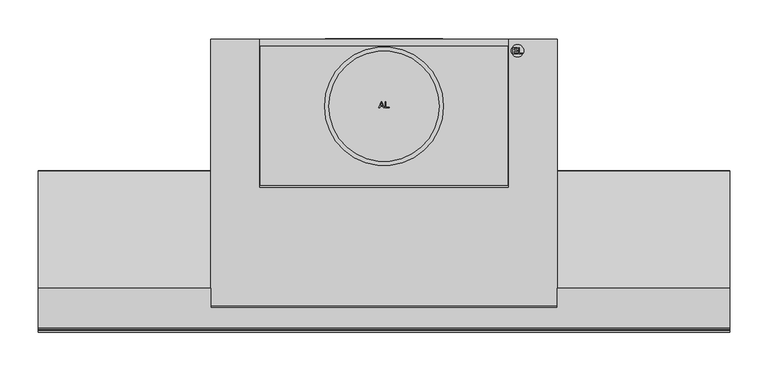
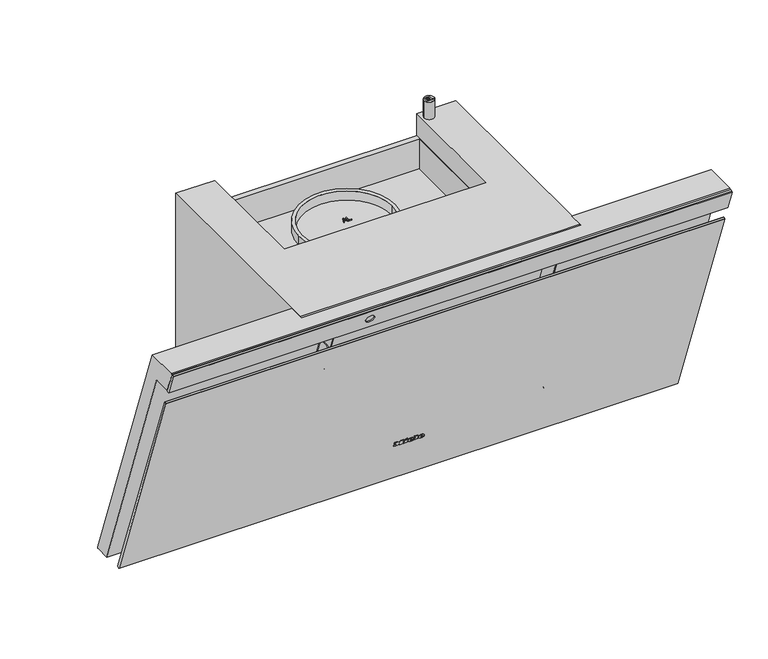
"""IFC4 building model written with IfcOpenShell, lengths in millimetres: proxy geometry, 12568680_F_DAH4980_MASW : 28H4980M_F_12568680_DAH4980_MASW."""

from ifc_helpers import new_model, si_unit, point, frame, frame_2d, origin, origin_with_axes, place, context, project, spatial, polyline, circle_curve, ellipse_curve, trimmed, segment, composite_curve, outline, extrude, faceted_brep, source, transform, mapped, element, save
from ifc_brep_helpers import plane_surface, cylinder_surface, revolved_surface, extruded_surface, advanced_brep


def specialty_equipment_e7027d4f(model_context):
    return source(origin(), model_context, "Body", "SolidModel", [
        extrude(outline(polyline([(0.0, 0.0), (0.968, 0.0), (0.968, 5.352), (0.0, 5.352), (0.0, 6.696), (3.52, 6.696), (3.52, 5.352), (2.56, 5.352), (2.56, 1.9488753), (6.136, 6.696), (9.728, 1.8807777), (9.728, 5.352), (8.744, 5.352), (8.744, 6.696), (15.128, 6.696), (15.128, 5.352), (14.112, 5.352), (14.112, 0.0), (15.128, 0.0), (15.128, -1.304), (10.256, -1.304), (7.92, 1.696), (5.576, -1.304), (0.0, -1.304), (0.0, 0.0)])), frame((-24.271984, -261.1380975, 82.2921818), z_axis=(0.0, 0.9396926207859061, 0.34202014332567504), x_axis=(1.0, 0.0, 0.0)), (0.0, 0.0, 1.0), 1.0),
        extrude(outline(polyline([(0.0, 0.0), (0.96, 0.0), (0.96, 5.352), (0.0, 5.352), (0.0, 6.696), (6.488, 6.696), (6.488, 5.352), (5.504, 5.352), (5.504, -1.304), (0.0, -1.304), (0.0, 0.0)])), frame((8.192016, -261.1380975, 82.2921818), z_axis=(0.0, 0.9396926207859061, 0.34202014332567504), x_axis=(1.0, 0.0, 0.0)), (0.0, 0.0, 1.0), 1.0),
        extrude(outline(polyline([(0.0, 0.0), (1.4315306, 0.0), (1.4390414, -2.9920869), (0.0109086, -2.9993294), (0.0, 0.0)])), frame((-6.351984, -261.4226582, 83.074006), z_axis=(0.0, 0.9396926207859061, 0.342020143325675), x_axis=(0.42472021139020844, 0.30963927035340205, -0.8507269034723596)), (0.0, 0.0, 1.0), 1.0),
        extrude(outline(polyline([(0.4933907, 2.4141097), (1.7898156, 3.022309), (2.1941493, 2.1604399), (5.1636141, 3.5535222), (4.7592805, 4.4153913), (5.9760369, 4.9862153), (8.6568708, -0.728194), (7.4401145, -1.299018), (7.0459741, -0.4588767), (2.7800843, -2.4601583), (0.4933907, 2.4141097)])), frame((-6.351984, -261.4226582, 83.074006), z_axis=(0.0, 0.9396926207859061, 0.342020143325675), x_axis=(0.42472021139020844, 0.30963927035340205, -0.8507269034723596)), (0.0, 0.0, 1.0), 1.0),
        advanced_brep(
        [(2.392016, -259.4964008, 77.7816572), (2.392016, -259.7727531, 78.5409288), (7.744016, -259.7727531, 78.5409288), (-1.567984, -259.7727531, 78.5409288), (0.632016, -258.8479306, 76.0), (7.608016, -259.4964008, 77.7816572), (5.192016, -259.4964008, 77.7816572), (3.288016, -259.1899507, 76.9396926), (2.392016, -260.1229817, 79.5031741), (2.392016, -260.4212233, 80.3225861), (3.760016, -260.4212233, 80.3225861), (3.760016, -260.1229817, 79.5031741), (2.392016, -258.5567082, 78.1236774), (3.288016, -258.2502581, 77.2817128), (5.192016, -258.5567082, 78.1236774), (7.608016, -258.5567082, 78.1236774), (0.632016, -257.908238, 76.3420201), (-1.567984, -258.8330604, 78.882949), (7.744016, -258.8330604, 78.882949), (2.392016, -258.8330604, 78.882949), (2.392016, -259.1832891, 79.8451942), (3.760016, -259.1832891, 79.8451942), (3.760016, -259.4815306, 80.6646062), (2.392016, -259.4815306, 80.6646062)],
        [
            (0, 1),
            (1, 2),
            (2, 3, ellipse_curve(frame((3.088016, -259.7727531, 78.5409288), z_axis=(0.0, -0.9396926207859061, -0.34202014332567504), x_axis=(-1.0, 0.0, 0.0)), 4.656, 3.848)),
            (3, 4, circle_curve(frame((1.5280596, -259.8657825, 78.7965252), z_axis=(0.0, -0.9396926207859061, -0.34202014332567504), x_axis=(0.0, 0.34202014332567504, -0.9396926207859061)), 3.1079688)),
            (4, 5, circle_curve(frame((2.9948096, -260.5881291, 80.7811561), z_axis=(0.0, -0.9396926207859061, -0.34202014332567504), x_axis=(0.0, 0.34202014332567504, -0.9396926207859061)), 5.6098607)),
            (5, 6),
            (6, 7, circle_curve(frame((3.6790748, -259.7508638, 78.4807885), z_axis=(0.0, 0.9396926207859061, 0.34202014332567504), x_axis=(0.0, 0.34202014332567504, -0.9396926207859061)), 1.6859795)),
            (7, 0, circle_curve(frame((3.288016, -259.4964008, 77.7816572), z_axis=(0.0, 0.9396926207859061, 0.34202014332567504), x_axis=(0.0, 0.34202014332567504, -0.9396926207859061)), 0.896)),
            (8, 9),
            (9, 10, circle_curve(frame((3.076016, -260.4212233, 80.3225861), z_axis=(0.0, 0.9396926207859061, 0.34202014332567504), x_axis=(0.0, 0.34202014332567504, -0.9396926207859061)), 0.684)),
            (10, 11),
            (11, 8),
            (12, 13, circle_curve(frame((3.288016, -258.5567082, 78.1236774), z_axis=(0.0, -0.9396926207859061, -0.34202014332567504), x_axis=(0.0, 0.34202014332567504, -0.9396926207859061)), 0.896)),
            (13, 14, circle_curve(frame((3.6790748, -258.8111712, 78.8228087), z_axis=(0.0, -0.9396926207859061, -0.34202014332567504), x_axis=(0.0, 0.34202014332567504, -0.9396926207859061)), 1.6859795)),
            (14, 15),
            (15, 16, circle_curve(frame((2.9948096, -259.6484365, 81.1231762), z_axis=(0.0, 0.9396926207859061, 0.34202014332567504), x_axis=(0.0, 0.34202014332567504, -0.9396926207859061)), 5.6098607)),
            (16, 17, circle_curve(frame((1.5280596, -258.9260899, 79.1385454), z_axis=(0.0, 0.9396926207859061, 0.34202014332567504), x_axis=(0.0, 0.34202014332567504, -0.9396926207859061)), 3.1079688)),
            (17, 18, ellipse_curve(frame((3.088016, -258.8330604, 78.882949), z_axis=(0.0, 0.9396926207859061, 0.34202014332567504), x_axis=(-1.0, 0.0, 0.0)), 4.656, 3.848)),
            (18, 19),
            (19, 12),
            (20, 21),
            (21, 22),
            (22, 23, circle_curve(frame((3.076016, -259.4815306, 80.6646062), z_axis=(0.0, -0.9396926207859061, -0.34202014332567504), x_axis=(0.0, 0.34202014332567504, -0.9396926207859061)), 0.684)),
            (23, 20),
            (0, 12),
            (19, 1),
            (18, 2),
            (5, 15),
            (14, 6),
            (17, 3),
            (13, 7),
            (16, 4),
            (8, 20),
            (23, 9),
            (22, 10),
            (21, 11),
        ],
        [
            plane_surface(frame((2.392016, -259.7727531, 78.5409288), z_axis=(0.0, -0.9396926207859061, -0.34202014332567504), x_axis=(0.0, -0.34202014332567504, 0.9396926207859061))),
            plane_surface(frame((2.392016, -258.8330604, 78.882949), z_axis=(0.0, 0.9396926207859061, 0.34202014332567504), x_axis=(0.0, 0.34202014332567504, -0.9396926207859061))),
            plane_surface(frame((2.392016, -259.4964008, 77.7816572), z_axis=(1.0, 0.0, 0.0), x_axis=(0.0, 0.9396926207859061, 0.34202014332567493))),
            plane_surface(frame((2.392016, -259.7727531, 78.5409288), z_axis=(0.0, 0.34202014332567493, -0.9396926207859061), x_axis=(0.0, 0.9396926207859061, 0.34202014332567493))),
            plane_surface(frame((7.608016, -259.4964008, 77.7816572), z_axis=(0.0, -0.34202014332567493, 0.9396926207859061), x_axis=(0.0, 0.9396926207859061, 0.34202014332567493))),
            extruded_surface(trimmed(ellipse_curve(frame((3.088016, -257.8933678, 79.2249691), z_axis=(0.0, -0.9396926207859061, -0.34202014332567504), x_axis=(-1.0, 0.0, 0.0)), 4.656, 3.848), [point((7.744016, -257.8933678, 79.2249691))], [point((-1.567984, -257.8933678, 79.2249691))], True, "CARTESIAN"), (0.0, -0.9396926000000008, -0.34202009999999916), 0.9999999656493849),
            revolved_surface(polyline([(3.6790748, -258.2345321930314, 77.23850622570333), (3.6790748, -259.1742248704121, 76.89648606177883)]), (3.6790748, -258.8111712, 78.8228087), (0.0, 0.9396926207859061, 0.34202014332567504)),
            revolved_surface(polyline([(3.288016, -258.25025810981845, 77.28171282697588), (3.288016, -259.1899507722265, 76.93969266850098)]), (3.288016, -258.5567082, 78.1236774), (0.0, 0.9396926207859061, 0.34202014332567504)),
            cylinder_surface(frame((1.5280596, -258.9260899, 79.1385454), z_axis=(0.0, -0.9396926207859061, -0.34202014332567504), x_axis=(0.0, 0.34202014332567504, -0.9396926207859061)), 3.1079688),
            cylinder_surface(frame((2.9948096, -259.6484365, 81.1231762), z_axis=(0.0, -0.9396926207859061, -0.34202014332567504), x_axis=(0.0, 0.34202014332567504, -0.9396926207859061)), 5.6098607),
            plane_surface(frame((2.392016, -260.1229817, 79.5031741), z_axis=(1.0, 0.0, 0.0), x_axis=(0.0, 0.9396926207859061, 0.34202014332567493))),
            revolved_surface(polyline([(3.076016, -259.2475888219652, 80.02185644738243), (3.076016, -260.1872814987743, 79.67983628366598)]), (3.076016, -259.4815306, 80.6646062), (0.0, 0.9396926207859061, 0.34202014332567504)),
            plane_surface(frame((3.760016, -260.4212233, 80.3225861), z_axis=(-1.0, 0.0, 0.0), x_axis=(0.0, 0.9396926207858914, 0.3420201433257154))),
            plane_surface(frame((3.760016, -260.1229817, 79.5031741), z_axis=(0.0, -0.34202014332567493, 0.9396926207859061), x_axis=(0.0, 0.9396926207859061, 0.34202014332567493))),
        ],
        [
            (0, [[1, 2, 3, 4, 5, 6, 7, 8], [9, 10, 11, 12]]),
            (1, [[13, 14, 15, 16, 17, 18, 19, 20], [21, 22, 23, 24]]),
            (2, [[-1, 25, -20, 26]]),
            (3, [[-2, -26, -19, 27]]),
            (4, [[-6, 28, -15, 29]]),
            (5, [[-3, -27, -18, 30]]),
            (6, [[-7, -29, -14, 31]]),
            (7, [[-8, -31, -13, -25]]),
            (8, [[-4, -30, -17, 32]]),
            (9, [[-5, -32, -16, -28]]),
            (10, [[-9, 33, -24, 34]]),
            (11, [[-10, -34, -23, 35]]),
            (12, [[-11, -35, -22, 36]]),
            (13, [[-12, -36, -21, -33]]),
        ],
    ),
        advanced_brep(
        [(19.088016, -259.4964008, 77.7816572), (19.088016, -259.7727531, 78.5409288), (24.440016, -259.7727531, 78.5409288), (15.128016, -259.7727531, 78.5409288), (17.328016, -258.8479306, 76.0), (24.304016, -259.4964008, 77.7816572), (21.888016, -259.4964008, 77.7816572), (19.984016, -259.1899507, 76.9396926), (19.088016, -260.1229817, 79.5031741), (19.088016, -260.4212233, 80.3225861), (20.456016, -260.4212233, 80.3225861), (20.456016, -260.1229817, 79.5031741), (19.088016, -258.5567082, 78.1236774), (19.984016, -258.2502581, 77.2817128), (21.888016, -258.5567082, 78.1236774), (24.304016, -258.5567082, 78.1236774), (17.328016, -257.908238, 76.3420201), (15.128016, -258.8330604, 78.882949), (24.440016, -258.8330604, 78.882949), (19.088016, -258.8330604, 78.882949), (19.088016, -259.1832891, 79.8451942), (20.456016, -259.1832891, 79.8451942), (20.456016, -259.4815306, 80.6646062), (19.088016, -259.4815306, 80.6646062)],
        [
            (0, 1),
            (1, 2),
            (2, 3, ellipse_curve(frame((19.784016, -259.7727531, 78.5409288), z_axis=(0.0, -0.9396926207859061, -0.34202014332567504), x_axis=(-1.0, 0.0, 0.0)), 4.656, 3.848)),
            (3, 4, circle_curve(frame((18.2240596, -259.8657825, 78.7965252), z_axis=(0.0, -0.9396926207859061, -0.34202014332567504), x_axis=(0.0, 0.34202014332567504, -0.9396926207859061)), 3.1079688)),
            (4, 5, circle_curve(frame((19.6908096, -260.5881291, 80.7811561), z_axis=(0.0, -0.9396926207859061, -0.34202014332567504), x_axis=(0.0, 0.34202014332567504, -0.9396926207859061)), 5.6098607)),
            (5, 6),
            (6, 7, circle_curve(frame((20.3750748, -259.7508638, 78.4807885), z_axis=(0.0, 0.9396926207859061, 0.34202014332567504), x_axis=(0.0, 0.34202014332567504, -0.9396926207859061)), 1.6859795)),
            (7, 0, circle_curve(frame((19.984016, -259.4964008, 77.7816572), z_axis=(0.0, 0.9396926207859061, 0.34202014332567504), x_axis=(0.0, 0.34202014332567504, -0.9396926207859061)), 0.896)),
            (8, 9),
            (9, 10, circle_curve(frame((19.772016, -260.4212233, 80.3225861), z_axis=(0.0, 0.9396926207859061, 0.34202014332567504), x_axis=(0.0, 0.34202014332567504, -0.9396926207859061)), 0.684)),
            (10, 11),
            (11, 8),
            (12, 13, circle_curve(frame((19.984016, -258.5567082, 78.1236774), z_axis=(0.0, -0.9396926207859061, -0.34202014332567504), x_axis=(0.0, 0.34202014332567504, -0.9396926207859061)), 0.896)),
            (13, 14, circle_curve(frame((20.3750748, -258.8111712, 78.8228087), z_axis=(0.0, -0.9396926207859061, -0.34202014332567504), x_axis=(0.0, 0.34202014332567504, -0.9396926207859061)), 1.6859795)),
            (14, 15),
            (15, 16, circle_curve(frame((19.6908096, -259.6484365, 81.1231762), z_axis=(0.0, 0.9396926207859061, 0.34202014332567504), x_axis=(0.0, 0.34202014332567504, -0.9396926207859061)), 5.6098607)),
            (16, 17, circle_curve(frame((18.2240596, -258.9260899, 79.1385454), z_axis=(0.0, 0.9396926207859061, 0.34202014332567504), x_axis=(0.0, 0.34202014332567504, -0.9396926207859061)), 3.1079688)),
            (17, 18, ellipse_curve(frame((19.784016, -258.8330604, 78.882949), z_axis=(0.0, 0.9396926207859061, 0.34202014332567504), x_axis=(-1.0, 0.0, 0.0)), 4.656, 3.848)),
            (18, 19),
            (19, 12),
            (20, 21),
            (21, 22),
            (22, 23, circle_curve(frame((19.772016, -259.4815306, 80.6646062), z_axis=(0.0, -0.9396926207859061, -0.34202014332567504), x_axis=(0.0, 0.34202014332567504, -0.9396926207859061)), 0.684)),
            (23, 20),
            (0, 12),
            (19, 1),
            (18, 2),
            (5, 15),
            (14, 6),
            (17, 3),
            (13, 7),
            (16, 4),
            (8, 20),
            (23, 9),
            (22, 10),
            (21, 11),
        ],
        [
            plane_surface(frame((19.088016, -259.7727531, 78.5409288), z_axis=(0.0, -0.9396926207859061, -0.34202014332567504), x_axis=(0.0, -0.34202014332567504, 0.9396926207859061))),
            plane_surface(frame((19.088016, -258.8330604, 78.882949), z_axis=(0.0, 0.9396926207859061, 0.34202014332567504), x_axis=(0.0, 0.34202014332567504, -0.9396926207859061))),
            plane_surface(frame((19.088016, -259.4964008, 77.7816572), z_axis=(1.0, 0.0, 0.0), x_axis=(0.0, 0.9396926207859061, 0.34202014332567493))),
            plane_surface(frame((19.088016, -259.7727531, 78.5409288), z_axis=(0.0, 0.34202014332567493, -0.9396926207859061), x_axis=(0.0, 0.9396926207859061, 0.34202014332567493))),
            plane_surface(frame((24.304016, -259.4964008, 77.7816572), z_axis=(0.0, -0.34202014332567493, 0.9396926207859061), x_axis=(0.0, 0.9396926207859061, 0.34202014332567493))),
            extruded_surface(trimmed(ellipse_curve(frame((19.784016, -257.8933678, 79.2249691), z_axis=(0.0, -0.9396926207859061, -0.34202014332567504), x_axis=(-1.0, 0.0, 0.0)), 4.656, 3.848), [point((24.440016, -257.8933678, 79.2249691))], [point((15.128016, -257.8933678, 79.2249691))], True, "CARTESIAN"), (0.0, -0.9396926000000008, -0.34202009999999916), 0.9999999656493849),
            revolved_surface(polyline([(20.3750748, -258.2345321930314, 77.23850622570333), (20.3750748, -259.1742248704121, 76.89648606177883)]), (20.3750748, -258.8111712, 78.8228087), (0.0, 0.9396926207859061, 0.34202014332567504)),
            revolved_surface(polyline([(19.984016, -258.25025810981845, 77.28171282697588), (19.984016, -259.1899507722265, 76.93969266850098)]), (19.984016, -258.5567082, 78.1236774), (0.0, 0.9396926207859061, 0.34202014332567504)),
            cylinder_surface(frame((18.2240596, -258.9260899, 79.1385454), z_axis=(0.0, -0.9396926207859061, -0.34202014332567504), x_axis=(0.0, 0.34202014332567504, -0.9396926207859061)), 3.1079688),
            cylinder_surface(frame((19.6908096, -259.6484365, 81.1231762), z_axis=(0.0, -0.9396926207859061, -0.34202014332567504), x_axis=(0.0, 0.34202014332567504, -0.9396926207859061)), 5.6098607),
            plane_surface(frame((19.088016, -260.1229817, 79.5031741), z_axis=(1.0, 0.0, 0.0), x_axis=(0.0, 0.9396926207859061, 0.34202014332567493))),
            revolved_surface(polyline([(19.772016, -259.2475888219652, 80.02185644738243), (19.772016, -260.1872814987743, 79.67983628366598)]), (19.772016, -259.4815306, 80.6646062), (0.0, 0.9396926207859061, 0.34202014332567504)),
            plane_surface(frame((20.456016, -260.4212233, 80.3225861), z_axis=(-1.0, 0.0, 0.0), x_axis=(0.0, 0.9396926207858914, 0.3420201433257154))),
            plane_surface(frame((20.456016, -260.1229817, 79.5031741), z_axis=(0.0, -0.34202014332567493, 0.9396926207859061), x_axis=(0.0, 0.9396926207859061, 0.34202014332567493))),
        ],
        [
            (0, [[1, 2, 3, 4, 5, 6, 7, 8], [9, 10, 11, 12]]),
            (1, [[13, 14, 15, 16, 17, 18, 19, 20], [21, 22, 23, 24]]),
            (2, [[-1, 25, -20, 26]]),
            (3, [[-2, -26, -19, 27]]),
            (4, [[-6, 28, -15, 29]]),
            (5, [[-3, -27, -18, 30]]),
            (6, [[-7, -29, -14, 31]]),
            (7, [[-8, -31, -13, -25]]),
            (8, [[-4, -30, -17, 32]]),
            (9, [[-5, -32, -16, -28]]),
            (10, [[-9, 33, -24, 34]]),
            (11, [[-10, -34, -23, 35]]),
            (12, [[-11, -35, -22, 36]]),
            (13, [[-12, -36, -21, -33]]),
        ],
    ),
        extrude(outline(polyline([(-360.7463335, 358.8873647), (-360.415052, 359.5978002), (-357.6978047, 360.5867974), (-356.9874893, 360.2555718), (-226.6813347, 2.2423544), (-227.0128466, 1.5314248), (-229.7316219, 0.5418715), (-230.4393591, 0.8718948), (-360.7463335, 358.8873647)])), frame((-449.0, 0.0, 0.0), z_axis=(1.0, 0.0, 0.0), x_axis=(0.0, 1.0, 0.0)), (0.0, 0.0, 1.0), 898.0),
        advanced_brep(
        [(-198.5, -225.9485265, 82.132138), (-198.5, -235.8911369, 109.4492355), (-198.5, -230.9198317, 95.7906867), (-198.5, -231.2422284, 80.5173231), (-198.5, -240.9843308, 107.2835295), (-198.5, -250.514978, 76.8365225), (-198.5, -258.1140866, 97.7149017), (-198.5, -251.4164577, 77.3487429), (-198.5, -258.4754112, 96.7430581), (-198.5, -254.9459345, 87.0459005)],
        [
            (0, 1, circle_curve(frame((-198.5, -230.9198317, 95.7906867), z_axis=(0.0, 0.9396926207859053, 0.3420201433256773), x_axis=(0.0, -0.3420201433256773, 0.9396926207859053)), 14.535124)),
            (1, 2),
            (2, 0),
            (1, 0, circle_curve(frame((-198.5, -230.9198317, 95.7906867), z_axis=(0.0, 0.9396926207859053, 0.3420201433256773), x_axis=(0.0, -0.3420201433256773, 0.9396926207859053)), 14.535124)),
            (3, 4, circle_curve(frame((-198.5, -236.1132796, 93.9004263), z_axis=(0.0, 0.9396926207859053, 0.3420201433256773), x_axis=(0.0, -0.3420201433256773, 0.9396926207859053)), 14.2420009)),
            (4, 1),
            (0, 3),
            (4, 3, circle_curve(frame((-198.5, -236.1132796, 93.9004263), z_axis=(0.0, 0.9396926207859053, 0.3420201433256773), x_axis=(0.0, -0.3420201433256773, 0.9396926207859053)), 14.2420009)),
            (5, 6, circle_curve(frame((-198.5, -254.3145323, 87.2757121), z_axis=(0.0, 0.9396926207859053, 0.3420201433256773), x_axis=(0.0, -0.3420201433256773, 0.9396926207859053)), 11.1091535)),
            (6, 4),
            (3, 5),
            (6, 5, circle_curve(frame((-198.5, -254.3145323, 87.2757121), z_axis=(0.0, 0.9396926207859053, 0.3420201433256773), x_axis=(0.0, -0.3420201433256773, 0.9396926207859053)), 11.1091535)),
            (7, 8, circle_curve(frame((-198.5, -254.9459345, 87.0459005), z_axis=(0.0, 0.9396926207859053, 0.3420201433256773), x_axis=(0.0, -0.3420201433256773, 0.9396926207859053)), 10.3194996)),
            (8, 6),
            (5, 7),
            (8, 7, circle_curve(frame((-198.5, -254.9459345, 87.0459005), z_axis=(0.0, 0.9396926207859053, 0.3420201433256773), x_axis=(0.0, -0.3420201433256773, 0.9396926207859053)), 10.3194996)),
            (9, 8),
            (7, 9),
        ],
        [
            plane_surface(frame((-198.5, -230.9198317, 95.7906867), z_axis=(0.0, 0.9396926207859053, 0.3420201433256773), x_axis=(0.0, -0.3420201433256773, 0.9396926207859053))),
            revolved_surface(polyline([(-198.5, -235.8312261, 109.4708926), (-198.5, -240.9843308, 107.2835295)]), (-198.5, -255.2773841, 86.9252627), (0.0, -0.9396926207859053, -0.3420201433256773)),
            revolved_surface(polyline([(-198.5, -240.9843308, 107.2835295), (-198.5, -258.1140866, 97.7149017)]), (-198.5, -255.2773841, 86.9252627), (0.0, -0.9396926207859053, -0.3420201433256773)),
            revolved_surface(polyline([(-198.5, -258.1140866, 97.7149017), (-198.5, -258.4754112, 96.7430581)]), (-198.5, -255.2773841, 86.9252627), (0.0, -0.9396926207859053, -0.3420201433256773)),
            plane_surface(frame((-198.5, -254.9459345, 87.0459005), z_axis=(0.0, -0.9396926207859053, -0.3420201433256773), x_axis=(0.0, -0.3420201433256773, 0.9396926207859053))),
        ],
        [
            (0, [[1, 2, 3]]),
            (0, [[4, -3, -2]]),
            (1, [[5, 6, -1, 7]]),
            (1, [[8, -7, -4, -6]]),
            (2, [[9, 10, -5, 11]]),
            (2, [[12, -11, -8, -10]]),
            (3, [[13, 14, -9, 15]]),
            (3, [[16, -15, -12, -14]]),
            (4, [[17, -13, 18]]),
            (4, [[-18, -16, -17]]),
        ],
    ),
        advanced_brep(
        [(-198.5, -249.4001153, 68.4387353), (-198.5, -262.8067778, 105.2732379), (-198.5, -257.0531232, 93.8737841), (-198.5, -252.3199878, 80.8696014), (-198.5, -250.699917, 68.232867), (-198.5, -263.9348133, 104.5954458), (-198.5, -257.3173652, 86.4141564), (-198.5, -254.6865555, 87.3716928)],
        [
            (0, 1, circle_curve(frame((-198.5, -256.1034466, 86.8559866), z_axis=(0.0, 0.9396926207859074, 0.34202014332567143), x_axis=(0.0, -0.34202014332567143, 0.9396926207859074)), 19.5992294)),
            (1, 2),
            (2, 3, circle_curve(frame((-198.5, -254.6865555, 87.3716928), z_axis=(0.0, -0.9396926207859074, -0.34202014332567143), x_axis=(0.0, -0.34202014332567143, 0.9396926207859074)), 6.9193811)),
            (3, 0),
            (1, 0, circle_curve(frame((-198.5, -256.1034466, 86.8559866), z_axis=(0.0, 0.9396926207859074, 0.34202014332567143), x_axis=(0.0, -0.34202014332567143, 0.9396926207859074)), 19.5992294)),
            (3, 2, circle_curve(frame((-198.5, -254.6865555, 87.3716928), z_axis=(0.0, -0.9396926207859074, -0.34202014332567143), x_axis=(0.0, -0.34202014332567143, 0.9396926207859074)), 6.9193811)),
            (4, 5, circle_curve(frame((-198.5, -257.3173652, 86.4141564), z_axis=(0.0, 0.9396926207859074, 0.34202014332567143), x_axis=(0.0, -0.34202014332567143, 0.9396926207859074)), 19.3481241)),
            (5, 1),
            (0, 4),
            (5, 4, circle_curve(frame((-198.5, -257.3173652, 86.4141564), z_axis=(0.0, 0.9396926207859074, 0.34202014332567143), x_axis=(0.0, -0.34202014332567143, 0.9396926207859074)), 19.3481241)),
            (6, 5),
            (4, 6),
            (2, 7),
            (7, 3),
        ],
        [
            revolved_surface(polyline([(-198.5, -257.0531232, 93.8737841), (-198.5, -262.8067778, 105.2732379)]), (-198.5, -254.6865555, 87.3716928), (0.0, -0.9396926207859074, -0.34202014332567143)),
            revolved_surface(polyline([(-198.5, -262.8067778, 105.2732379), (-198.5, -263.9348133, 104.5954458)]), (-198.5, -254.6865555, 87.3716928), (0.0, -0.9396926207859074, -0.34202014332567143)),
            plane_surface(frame((-198.5, -257.3173652, 86.4141564), z_axis=(0.0, -0.9396926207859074, -0.34202014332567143), x_axis=(0.0, -0.34202014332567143, 0.9396926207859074))),
            plane_surface(frame((-198.5, -254.6865555, 87.3716928), z_axis=(0.0, 0.9396926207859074, 0.34202014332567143), x_axis=(0.0, -0.34202014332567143, 0.9396926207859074))),
        ],
        [
            (0, [[1, 2, 3, 4]]),
            (0, [[5, -4, 6, -2]]),
            (1, [[7, 8, -1, 9]]),
            (1, [[10, -9, -5, -8]]),
            (2, [[11, -7, 12]]),
            (2, [[-12, -10, -11]]),
            (3, [[-3, 13, 14]]),
            (3, [[-6, -14, -13]]),
        ],
    ),
        advanced_brep(
        [(176.5, -181.0, 17.47316), (-176.5, -181.0, 17.47316), (-176.5, -176.8867205, 17.47316), (176.5, -176.8867205, 17.47316), (-176.5, -181.0, -1.0), (-176.5, -172.0796342, -1.0), (-176.5, -170.778799, 0.6917834), (176.5, -181.0, -1.0), (176.5, -170.778799, 0.6917834), (176.5, -172.0796342, -1.0), (449.0, -323.3945088, 420.0), (449.0, -375.0979614, 420.0), (449.0, -376.7893982, 417.5843506), (449.0, -364.9985039, 385.1891347), (449.0, -363.3053284, 384.0), (449.0, -340.650621, 384.0), (449.0, -335.6111939, 385.7236467), (449.0, -196.7717369, -1.0), (449.0, -172.0796342, -1.0), (449.0, -170.778799, 0.6917834), (-449.0, -323.3945088, 420.0), (-449.0, -170.778799, 0.6917834), (-449.0, -172.0796342, -1.0), (-449.0, -196.7717369, -1.0), (-449.0, -335.6111939, 385.7236467), (-449.0, -340.650621, 384.0), (-449.0, -363.3053284, 384.0), (-449.0, -364.9985039, 385.1891347), (-449.0, -376.7893982, 417.5843506), (-449.0, -375.0979614, 420.0), (225.0, -323.3945088, 420.0), (225.0, -349.0492238, 420.0), (-225.0, -349.0492238, 420.0), (-225.0, -323.3945088, 420.0), (-225.0, -335.6111939, 385.7236467), (-225.0, -336.4744757, 385.4283765), (225.0, -336.4744757, 385.4283765), (225.0, -335.6111939, 385.7236467), (225.0, -335.5051875, 385.4283765), (-225.0, -335.5051875, 385.4283765), (-225.0, -310.8114669, 385.4283765), (225.0, -310.8114669, 385.4283765)],
        [
            (0, 1),
            (1, 2),
            (2, 3),
            (3, 0),
            (1, 4),
            (4, 5),
            (5, 6, circle_curve(frame((-176.5, -172.0796342, 0.3460066), z_axis=(1.0, 0.0, 0.0), x_axis=(0.0, 1.0, 0.0)), 1.3460066)),
            (6, 2),
            (0, 7),
            (7, 4),
            (3, 8),
            (8, 9, circle_curve(frame((176.5, -172.0796342, 0.3460066), z_axis=(-1.0, 0.0, 0.0), x_axis=(0.0, 1.0, 0.0)), 1.3460066)),
            (9, 7),
            (10, 11),
            (11, 12),
            (12, 13),
            (13, 14),
            (14, 15),
            (15, 16),
            (16, 17),
            (17, 18),
            (18, 19, circle_curve(frame((449.0, -172.0796342, 0.3460066), z_axis=(1.0, 0.0, 0.0), x_axis=(0.0, 1.0, 0.0)), 1.3460066)),
            (19, 10),
            (20, 21),
            (21, 22, circle_curve(frame((-449.0, -172.0796342, 0.3460066), z_axis=(-1.0, 0.0, 0.0), x_axis=(0.0, 1.0, 0.0)), 1.3460066)),
            (22, 23),
            (23, 24),
            (24, 25),
            (25, 26),
            (26, 27),
            (27, 28),
            (28, 29),
            (29, 20),
            (10, 30),
            (30, 31),
            (31, 32),
            (32, 33),
            (33, 20),
            (29, 11),
            (28, 12),
            (27, 13),
            (26, 14),
            (25, 15),
            (24, 34),
            (34, 35),
            (35, 36),
            (36, 37),
            (37, 16),
            (37, 38),
            (38, 39),
            (39, 34),
            (23, 17),
            (22, 5),
            (9, 18),
            (8, 19),
            (21, 6),
            (33, 40),
            (40, 41),
            (41, 30),
            (36, 31),
            (41, 38),
            (32, 35),
            (39, 40),
        ],
        [
            plane_surface(frame((-176.5, -48.0, 17.47316), z_axis=(0.0, 0.0, -1.0), x_axis=(-1.0, 0.0, 0.0))),
            plane_surface(frame((-176.5, -48.0, 17.47316), z_axis=(1.0, 0.0, 0.0), x_axis=(0.0, 0.0, -1.0))),
            plane_surface(frame((-176.5, -181.0, 17.47316), z_axis=(0.0, 1.0, 0.0), x_axis=(0.0, 0.0, -1.0))),
            plane_surface(frame((176.5, -181.0, 17.47316), z_axis=(-1.0, 0.0, 0.0), x_axis=(0.0, 0.0, -1.0))),
            plane_surface(frame((449.0, -323.3945088, 420.0), z_axis=(1.0, 0.0, 0.0), x_axis=(0.0, -1.0, 0.0))),
            plane_surface(frame((-449.0, -323.3945088, 420.0), z_axis=(-1.0, 0.0, 0.0), x_axis=(0.0, 1.0, 0.0))),
            plane_surface(frame((449.0, -323.3945088, 420.0), z_axis=(0.0, 0.0, 1.0), x_axis=(-1.0, 0.0, 0.0))),
            plane_surface(frame((449.0, -375.0979614, 420.0), z_axis=(0.0, -0.8191550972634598, 0.5735720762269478), x_axis=(-1.0, 0.0, 0.0))),
            plane_surface(frame((449.0, -376.7893982, 417.5843506), z_axis=(0.0, -0.9396926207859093, -0.3420201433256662), x_axis=(-1.0, 0.0, 0.0))),
            plane_surface(frame((449.0, -364.9985039, 385.1891347), z_axis=(0.0, -0.5747305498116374, -0.818342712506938), x_axis=(-1.0, 0.0, 0.0))),
            plane_surface(frame((449.0, -363.3053284, 384.0), z_axis=(0.0, 0.0, -1.0), x_axis=(-1.0, 0.0, 0.0))),
            plane_surface(frame((449.0, -340.650621, 384.0), z_axis=(0.0, 0.3236258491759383, -0.9461851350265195), x_axis=(-1.0, 0.0, 0.0))),
            plane_surface(frame((449.0, -335.6111939, 385.7236467), z_axis=(0.0, -0.9411826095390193, -0.3378983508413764), x_axis=(-1.0, 0.0, 0.0))),
            plane_surface(frame((449.0, -196.7717369, -1.0), z_axis=(0.0, 0.0, -1.0), x_axis=(-1.0, 0.0, 0.0))),
            cylinder_surface(frame((-449.0, -172.0796342, 0.3460066), z_axis=(1.0, 0.0, 0.0), x_axis=(0.0, 1.0, 0.0)), 1.3460066),
            plane_surface(frame((449.0, -170.778799, 0.6917834), z_axis=(0.0, 0.9396926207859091, 0.3420201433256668), x_axis=(-1.0, 0.0, 0.0))),
            plane_surface(frame((225.0, -336.4744757, 385.4283765), z_axis=(-1.0000000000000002, 0.0, 0.0), x_axis=(0.0, 0.34182105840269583, -0.9397650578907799))),
            plane_surface(frame((-225.0, -336.4744757, 385.4283765), z_axis=(1.0000000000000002, 0.0, 0.0), x_axis=(0.0, -0.34182105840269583, 0.9397650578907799))),
            plane_surface(frame((225.0, -349.0492238, 420.0), z_axis=(0.0, 0.9397650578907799, 0.34182105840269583), x_axis=(-1.0, 0.0, 0.0))),
            plane_surface(frame((225.0, -336.4744757, 385.4283765), z_axis=(0.0, 0.0, 1.0), x_axis=(-1.0, 0.0, 0.0))),
        ],
        [
            (0, [[1, 2, 3, 4]]),
            (1, [[-2, 5, 6, 7, 8]]),
            (2, [[-1, 9, 10, -5]]),
            (3, [[-4, 11, 12, 13, -9]]),
            (4, [[14, 15, 16, 17, 18, 19, 20, 21, 22, 23]]),
            (5, [[24, 25, 26, 27, 28, 29, 30, 31, 32, 33]]),
            (6, [[-14, 34, 35, 36, 37, 38, -33, 39]]),
            (7, [[-15, -39, -32, 40]]),
            (8, [[-16, -40, -31, 41]]),
            (9, [[-17, -41, -30, 42]]),
            (10, [[-18, -42, -29, 43]]),
            (11, [[-19, -43, -28, 44, 45, 46, 47, 48]]),
            (12, [[-20, -48, 49, 50, 51, -44, -27, 52]]),
            (13, [[-21, -52, -26, 53, -6, -10, -13, 54]]),
            (14, [[-22, -54, -12, 55]]),
            (14, [[-25, 56, -7, -53]]),
            (15, [[-23, -55, -11, -3, -8, -56, -24, -38, 57, 58, 59, -34]]),
            (16, [[60, -35, -59, 61, -49, -47]]),
            (17, [[62, -45, -51, 63, -57, -37]]),
            (18, [[-60, -46, -62, -36]]),
            (19, [[-61, -58, -63, -50]]),
        ],
    ),
        extrude(outline(polyline([(-306.7195362, 239.6880975), (-295.2497253, 239.1867523), (-287.4936218, 230.7224274), (-265.2623125, 169.642407), (-265.763092, 158.1728363), (-274.227725, 150.4175862), (-279.8658073, 148.3654921), (-312.3576165, 237.6360041), (-306.7195362, 239.6880975)])), frame((181.7499655, 0.0, 0.0), z_axis=(1.0, 0.0, 0.0), x_axis=(0.0, 1.0, 0.0)), (0.0, 0.0, 1.0), 4.7307792),
        extrude(outline(polyline([(-345.8296012, 357.410578), (-334.3598001, 356.9092332), (-332.8038582, 355.2112159), (-317.287762, 312.581092), (-317.287762, 307.3632968), (-320.9842642, 303.6667946), (-334.5886296, 298.7152105), (-354.767901, 354.157303), (-345.8296012, 357.410578)])), frame((-183.7499655, 0.0, 0.0), z_axis=(1.0, 0.0, 0.0), x_axis=(0.0, 1.0, 0.0)), (0.0, 0.0, 1.0), 2.0),
        advanced_brep(
        [(198.5, -230.9018417, 95.8650227), (198.5, -235.8509293, 109.4625291), (198.5, -225.9091808, 82.1477994), (198.5, -240.9843308, 107.2835295), (198.5, -231.2422284, 80.5173231), (198.5, -258.1140866, 97.7149017), (198.5, -250.514978, 76.8365225), (198.5, -258.4754112, 96.7430581), (198.5, -251.4164577, 77.3487429), (198.5, -254.9459345, 87.0459005)],
        [
            (0, 1),
            (1, 2, circle_curve(frame((198.5, -230.8800551, 95.8051643), z_axis=(0.0, 0.9396926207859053, 0.3420201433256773), x_axis=(0.0, -0.3420201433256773, 0.9396926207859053)), 14.5338641)),
            (2, 0),
            (2, 1, circle_curve(frame((198.5, -230.8800551, 95.8051643), z_axis=(0.0, 0.9396926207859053, 0.3420201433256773), x_axis=(0.0, -0.3420201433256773, 0.9396926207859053)), 14.5338641)),
            (1, 3),
            (3, 4, circle_curve(frame((198.5, -236.1132796, 93.9004263), z_axis=(0.0, 0.9396926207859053, 0.3420201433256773), x_axis=(0.0, -0.3420201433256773, 0.9396926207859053)), 14.2420009)),
            (4, 2),
            (4, 3, circle_curve(frame((198.5, -236.1132796, 93.9004263), z_axis=(0.0, 0.9396926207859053, 0.3420201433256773), x_axis=(0.0, -0.3420201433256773, 0.9396926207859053)), 14.2420009)),
            (3, 5),
            (5, 6, circle_curve(frame((198.5, -254.3145323, 87.2757121), z_axis=(0.0, 0.9396926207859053, 0.3420201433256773), x_axis=(0.0, -0.3420201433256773, 0.9396926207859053)), 11.1091535)),
            (6, 4),
            (6, 5, circle_curve(frame((198.5, -254.3145323, 87.2757121), z_axis=(0.0, 0.9396926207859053, 0.3420201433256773), x_axis=(0.0, -0.3420201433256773, 0.9396926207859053)), 11.1091535)),
            (5, 7),
            (7, 8, circle_curve(frame((198.5, -254.9459345, 87.0459005), z_axis=(0.0, 0.9396926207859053, 0.3420201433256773), x_axis=(0.0, -0.3420201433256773, 0.9396926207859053)), 10.3194996)),
            (8, 6),
            (8, 7, circle_curve(frame((198.5, -254.9459345, 87.0459005), z_axis=(0.0, 0.9396926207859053, 0.3420201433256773), x_axis=(0.0, -0.3420201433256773, 0.9396926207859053)), 10.3194996)),
            (7, 9),
            (9, 8),
        ],
        [
            plane_surface(frame((198.5, -230.8800551, 95.8051643), z_axis=(0.0, 0.9396926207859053, 0.3420201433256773), x_axis=(0.0, -0.3420201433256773, 0.9396926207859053))),
            revolved_surface(polyline([(198.5, -240.9843308, 107.2835295), (198.5, -235.8509293, 109.4625291)]), (198.5, -255.2773841, 86.9252627), (0.0, 0.9396926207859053, 0.3420201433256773)),
            revolved_surface(polyline([(198.5, -258.1140866, 97.7149017), (198.5, -240.9843308, 107.2835295)]), (198.5, -255.2773841, 86.9252627), (0.0, 0.9396926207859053, 0.3420201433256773)),
            revolved_surface(polyline([(198.5, -258.4754112, 96.7430581), (198.5, -258.1140866, 97.7149017)]), (198.5, -255.2773841, 86.9252627), (0.0, 0.9396926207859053, 0.3420201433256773)),
            plane_surface(frame((198.5, -254.9459345, 87.0459005), z_axis=(0.0, -0.9396926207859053, -0.3420201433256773), x_axis=(0.0, -0.3420201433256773, 0.9396926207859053))),
        ],
        [
            (0, [[1, 2, 3]]),
            (0, [[-3, 4, -1]]),
            (1, [[-2, 5, 6, 7]]),
            (1, [[-4, -7, 8, -5]]),
            (2, [[-6, 9, 10, 11]]),
            (2, [[-8, -11, 12, -9]]),
            (3, [[-10, 13, 14, 15]]),
            (3, [[-12, -15, 16, -13]]),
            (4, [[-14, 17, 18]]),
            (4, [[-16, -18, -17]]),
        ],
    ),
        advanced_brep(
        [(198.5, -252.3199878, 80.8696014), (198.5, -257.0531232, 93.8737841), (198.5, -262.8067778, 105.2732379), (198.5, -249.4001153, 68.4387353), (198.5, -263.9348133, 104.5954458), (198.5, -250.699917, 68.232867), (198.5, -257.3173652, 86.4141564), (198.5, -254.6865555, 87.3716928)],
        [
            (0, 1, circle_curve(frame((198.5, -254.6865555, 87.3716928), z_axis=(0.0, -0.9396926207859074, -0.34202014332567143), x_axis=(0.0, -0.34202014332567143, 0.9396926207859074)), 6.9193811)),
            (1, 2),
            (2, 3, circle_curve(frame((198.5, -256.1034466, 86.8559866), z_axis=(0.0, 0.9396926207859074, 0.34202014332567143), x_axis=(0.0, -0.34202014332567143, 0.9396926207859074)), 19.5992294)),
            (3, 0),
            (1, 0, circle_curve(frame((198.5, -254.6865555, 87.3716928), z_axis=(0.0, -0.9396926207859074, -0.34202014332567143), x_axis=(0.0, -0.34202014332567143, 0.9396926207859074)), 6.9193811)),
            (3, 2, circle_curve(frame((198.5, -256.1034466, 86.8559866), z_axis=(0.0, 0.9396926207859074, 0.34202014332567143), x_axis=(0.0, -0.34202014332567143, 0.9396926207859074)), 19.5992294)),
            (2, 4),
            (4, 5, circle_curve(frame((198.5, -257.3173652, 86.4141564), z_axis=(0.0, 0.9396926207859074, 0.34202014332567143), x_axis=(0.0, -0.34202014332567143, 0.9396926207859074)), 19.3481241)),
            (5, 3),
            (5, 4, circle_curve(frame((198.5, -257.3173652, 86.4141564), z_axis=(0.0, 0.9396926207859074, 0.34202014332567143), x_axis=(0.0, -0.34202014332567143, 0.9396926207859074)), 19.3481241)),
            (4, 6),
            (6, 5),
            (7, 1),
            (0, 7),
        ],
        [
            revolved_surface(polyline([(198.5, -262.8067778, 105.2732379), (198.5, -257.0531232, 93.8737841)]), (198.5, -254.6865555, 87.3716928), (0.0, 0.9396926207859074, 0.34202014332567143)),
            revolved_surface(polyline([(198.5, -263.9348133, 104.5954458), (198.5, -262.8067778, 105.2732379)]), (198.5, -254.6865555, 87.3716928), (0.0, 0.9396926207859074, 0.34202014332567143)),
            plane_surface(frame((198.5, -257.3173652, 86.4141564), z_axis=(0.0, -0.9396926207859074, -0.34202014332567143), x_axis=(0.0, -0.34202014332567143, 0.9396926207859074))),
            plane_surface(frame((198.5, -254.6865555, 87.3716928), z_axis=(0.0, 0.9396926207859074, 0.34202014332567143), x_axis=(0.0, -0.34202014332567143, 0.9396926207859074))),
        ],
        [
            (0, [[1, 2, 3, 4]]),
            (0, [[5, -4, 6, -2]]),
            (1, [[-3, 7, 8, 9]]),
            (1, [[-6, -9, 10, -7]]),
            (2, [[-8, 11, 12]]),
            (2, [[-10, -12, -11]]),
            (3, [[13, -1, 14]]),
            (3, [[-14, -5, -13]]),
        ],
    ),
        extrude(outline(composite_curve([segment(trimmed(circle_curve(frame_2d((0.0, -6.0)), 6.0), [point((0.0, -12.0))], [point((0.0, 0.0))], False, "CARTESIAN"), True, "CONTINUOUS"), segment(trimmed(circle_curve(frame_2d((0.0, -6.0)), 6.0), [point((0.0, 0.0))], [point((0.0, -12.0))], False, "CARTESIAN"), True, "CONTINUOUS")], self_intersect=False)), frame((198.4796168, -289.1352634, 208.4825387), z_axis=(0.0, -0.3420201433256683, 0.9396926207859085), x_axis=(0.0, -0.9396926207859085, -0.3420201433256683)), (0.0, 0.0, 1.0), 113.1205625),
        extrude(outline(polyline([(-361.9104566, 384.0), (-340.650621, 384.0), (-338.7456903, 384.6933381), (-330.4700245, 361.956133), (-328.2328821, 362.7698496), (-315.2229538, 327.0017899), (-323.0667018, 324.1487808), (-318.916642, 312.746585), (-320.3109418, 304.8391181), (-327.8390565, 302.0991084), (-333.9712794, 307.2377416), (-361.9104566, 384.0)])), frame((178.2999838, 0.0, 0.0), z_axis=(1.0, 0.0, 0.0), x_axis=(0.0, 1.0, 0.0)), (0.0, 0.0, 1.0), 2.0),
        extrude(outline(polyline([(-361.9104566, 384.0), (-340.650621, 384.0), (-338.7456903, 384.6933381), (-330.4700245, 361.956133), (-328.2328821, 362.7698496), (-315.2229538, 327.0017899), (-323.0667018, 324.1487808), (-318.916642, 312.746585), (-320.3109418, 304.8391181), (-327.8390565, 302.0991084), (-333.9712794, 307.2377416), (-361.9104566, 384.0)])), frame((-180.2999838, 0.0, 0.0), z_axis=(1.0, 0.0, 0.0), x_axis=(0.0, 1.0, 0.0)), (0.0, 0.0, 1.0), 2.0),
        advanced_brep(
        [(449.0, -381.0099753, 417.484771), (449.0, -368.349332, 382.6999393), (449.0, -367.6388965, 382.3686578), (449.0, -364.9380121, 383.3516993), (449.0, -364.5963793, 384.0843332), (449.0, -377.2511311, 418.8529781), (449.0, -377.9614465, 419.1842036), (449.0, -380.6786938, 418.1952065), (-449.0, -381.0099753, 417.484771), (-449.0, -380.6786938, 418.1952065), (-449.0, -377.9614465, 419.1842036), (-449.0, -377.2511311, 418.8529781), (-449.0, -364.5963793, 384.0843332), (-449.0, -364.9380121, 383.3516993), (-449.0, -367.6388965, 382.3686578), (-449.0, -368.349332, 382.6999393), (-121.7000162, -374.6828297, 400.1010812), (-135.7000162, -374.6828297, 400.1010812), (-135.7000162, -372.6478495, 400.8417534), (-121.7000162, -372.6478495, 400.8417534)],
        [
            (0, 1),
            (1, 2),
            (2, 3),
            (3, 4),
            (4, 5),
            (5, 6),
            (6, 7),
            (7, 0),
            (8, 9),
            (9, 10),
            (10, 11),
            (11, 12),
            (12, 13),
            (13, 14),
            (14, 15),
            (15, 8),
            (0, 8),
            (15, 1),
            (16, 17, circle_curve(frame((-128.7000162, -374.6828297, 400.1010812), z_axis=(0.0, 0.9396926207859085, 0.3420201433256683), x_axis=(1.0, 0.0, 0.0)), 7.0)),
            (17, 16, circle_curve(frame((-128.7000162, -374.6828297, 400.1010812), z_axis=(0.0, 0.9396926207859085, 0.3420201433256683), x_axis=(1.0, 0.0, 0.0)), 7.0)),
            (14, 2),
            (13, 3),
            (12, 4),
            (11, 5),
            (10, 6),
            (9, 7),
            (18, 19, circle_curve(frame((-128.7000162, -372.6478495, 400.8417534), z_axis=(0.0, -0.9396926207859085, -0.3420201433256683), x_axis=(1.0, 0.0, 0.0)), 7.0)),
            (19, 18, circle_curve(frame((-128.7000162, -372.6478495, 400.8417534), z_axis=(0.0, -0.9396926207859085, -0.3420201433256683), x_axis=(1.0, 0.0, 0.0)), 7.0)),
            (18, 17),
            (16, 19),
        ],
        [
            plane_surface(frame((449.0, -368.3552555, 382.7162141), z_axis=(1.0, 0.0, 0.0), x_axis=(0.0, 0.342020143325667, -0.939692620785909))),
            plane_surface(frame((-449.0, -368.3552555, 382.7162141), z_axis=(-1.0, 0.0, 0.0), x_axis=(0.0, -0.342020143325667, 0.939692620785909))),
            plane_surface(frame((449.0, -381.0099753, 417.484771), z_axis=(0.0, -0.939692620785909, -0.342020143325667), x_axis=(-1.0, 0.0, 0.0))),
            plane_surface(frame((449.0, -368.349332, 382.6999393), z_axis=(0.0, -0.42261826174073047, -0.9063077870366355), x_axis=(-1.0, 0.0, 0.0))),
            plane_surface(frame((449.0, -367.6388965, 382.3686578), z_axis=(0.0, 0.3420201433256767, -0.9396926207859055), x_axis=(-1.0, 0.0, 0.0))),
            plane_surface(frame((449.0, -364.9380121, 383.3516993), z_axis=(0.0, 0.906307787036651, -0.42261826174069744), x_axis=(-1.0, 0.0, 0.0))),
            plane_surface(frame((449.0, -364.5963793, 384.0843332), z_axis=(0.0, 0.93969262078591, 0.3420201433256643), x_axis=(-1.0, 0.0, 0.0))),
            plane_surface(frame((449.0, -377.2511311, 418.8529781), z_axis=(0.0, 0.4226182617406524, 0.9063077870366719), x_axis=(-1.0, 0.0, 0.0))),
            plane_surface(frame((449.0, -377.9614465, 419.1842036), z_axis=(0.0, -0.34202014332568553, 0.9396926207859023), x_axis=(-1.0, 0.0, 0.0))),
            plane_surface(frame((449.0, -380.6786938, 418.1952065), z_axis=(0.0, -0.9063077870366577, 0.42261826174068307), x_axis=(-1.0, 0.0, 0.0))),
            plane_surface(frame((-121.7000162, -372.6478495, 400.8417534), z_axis=(0.0, -0.9396926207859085, -0.3420201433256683), x_axis=(0.0, 0.3420201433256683, -0.9396926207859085))),
            revolved_surface(polyline([(-121.7000162, -374.6828296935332, 400.10108118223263), (-121.7000162, -372.6478495, 400.8417534)]), (-128.7000162, -372.6478495, 400.8417534), (0.0, -0.9396926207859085, -0.3420201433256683)),
        ],
        [
            (0, [[1, 2, 3, 4, 5, 6, 7, 8]]),
            (1, [[9, 10, 11, 12, 13, 14, 15, 16]]),
            (2, [[-1, 17, -16, 18], [19, 20]]),
            (3, [[-2, -18, -15, 21]]),
            (4, [[-3, -21, -14, 22]]),
            (5, [[-4, -22, -13, 23]]),
            (6, [[-5, -23, -12, 24]]),
            (7, [[-6, -24, -11, 25]]),
            (8, [[-7, -25, -10, 26]]),
            (9, [[-8, -26, -9, -17]]),
            (10, [[27, 28]]),
            (11, [[-27, 29, -19, 30]]),
            (11, [[-28, -30, -20, -29]]),
        ],
    ),
        faceted_brep([(225.0000193, -346.0, 420.0), (225.0000193, -193.2332597, 0.0), (225.0000193, 0.0, 0.0), (225.0000193, 0.0, 420.0), (-225.0000193, -346.0, 420.0), (-225.0000193, 0.0, 420.0), (-225.0000193, 0.0, 0.0), (-225.0000193, -193.2332597, 0.0), (176.5, -48.0, 0.0), (-176.5, -48.0, 0.0), (-176.5, -181.0, 0.0), (176.5, -181.0, 0.0), (125.0, -12.0, 0.0), (-125.0, -12.0, 0.0), (-125.0, -38.0, 0.0), (125.0, -38.0, 0.0), (-162.2229137, 0.0, 420.0), (-162.2229137, 0.0, 382.5), (162.2229137, 0.0, 382.5), (162.2229137, 0.0, 420.0), (-160.9556997, -9.0, 332.0), (160.9556997, -9.0, 332.0), (160.9556997, -9.0, 382.5), (-160.9556997, -9.0, 382.5), (-160.9556997, -190.0399284, 332.0), (-160.9556997, -190.0399284, 382.5), (160.9556997, -190.0399284, 332.0), (160.9556997, -190.0399284, 382.5), (176.5, -48.0, 11.0), (-176.5, -48.0, 11.0), (125.0, -12.0, 11.0), (-125.0, -12.0, 11.0), (162.2229137, -193.2332597, 420.0), (-162.2229137, -193.2332597, 420.0), (176.5, -181.0, 11.0), (-176.5, -181.0, 11.0), (125.0, -38.0, 11.0), (-125.0, -38.0, 11.0), (162.2229137, -193.2332597, 382.5), (-162.2229137, -193.2332597, 382.5)], [[[0, 1, 2, 3]], [[4, 5, 6, 7]], [[1, 0, 4, 7]], [[2, 1, 7, 6], [8, 9, 10, 11], [12, 13, 14, 15]], [[3, 2, 6, 5, 16, 17, 18, 19]], [[20, 21, 22, 23]], [[24, 20, 23, 25]], [[21, 26, 27, 22]], [[28, 29, 9, 8]], [[30, 31, 13, 12]], [[0, 3, 19, 32, 33, 16, 5, 4]], [[21, 20, 24, 26]], [[26, 24, 25, 27]], [[28, 34, 35, 29]], [[29, 35, 10, 9]], [[35, 34, 11, 10]], [[34, 28, 8, 11]], [[30, 36, 37, 31]], [[31, 37, 14, 13]], [[37, 36, 15, 14]], [[36, 30, 12, 15]], [[32, 38, 39, 33]], [[39, 38, 18, 17], [23, 22, 27, 25]], [[38, 32, 19, 18]], [[33, 39, 17, 16]]]),
        extrude(outline(polyline([(125.0, -12.0), (125.0, -38.0), (-125.0, -38.0), (-125.0, -12.0), (125.0, -12.0)]), holes=[polyline([(-119.0, -31.2), (119.0, -31.2), (119.0, -18.8), (-119.0, -18.8), (-119.0, -31.2)])]), origin_with_axes(), (0.0, 0.0, 1.0), 11.0),
        extrude(outline(polyline([(119.0, -18.8), (119.0, -31.2), (-119.0, -31.2), (-119.0, -18.8), (119.0, -18.8)])), origin_with_axes(), (0.0, 0.0, 1.0), 11.0),
        extrude(outline(polyline([(176.5, -48.0), (176.5, -181.0), (-176.5, -181.0), (-176.5, -48.0), (176.5, -48.0)]), holes=[polyline([(167.5, -57.0), (-167.5, -57.0), (-167.5, -172.0), (167.5, -172.0), (167.5, -57.0)])]), origin_with_axes(), (0.0, 0.0, 1.0), 11.0),
        extrude(outline(polyline([(167.5, -57.0), (167.5, -172.0), (-167.5, -172.0), (-167.5, -57.0), (167.5, -57.0)])), frame((0.0, 0.0, 1.0), z_axis=(0.0, 0.0, 1.0), x_axis=(1.0, 0.0, 0.0)), (0.0, 0.0, 1.0), 10.0),
        extrude(outline(polyline([(-167.5, -98.0), (-124.5000193, -98.0), (-124.5000193, -131.0), (-167.5, -131.0), (-167.5, -98.0)]), holes=[polyline([(-131.0000193, -104.5), (-160.0000193, -104.5), (-160.0000193, -124.5), (-131.0000193, -124.5), (-131.0000193, -104.5)])]), origin_with_axes(), (0.0, 0.0, 1.0), 1.0),
        extrude(outline(polyline([(-131.0000193, -104.5), (-131.0000193, -124.5), (-140.0000193, -124.5), (-140.0000193, -104.5), (-131.0000193, -104.5)])), origin_with_axes(), (0.0, 0.0, 1.0), 1.0),
        extrude(outline(composite_curve([segment(trimmed(circle_curve(frame_2d((0.0, -86.9971466)), 77.2963157), [point((-77.2963157, -86.9971466))], [point((77.2963157, -86.9971466))], False, "CARTESIAN"), True, "CONTINUOUS"), segment(trimmed(circle_curve(frame_2d((0.0, -86.9971466)), 77.2963157), [point((77.2963157, -86.9971466))], [point((-77.2963157, -86.9971466))], False, "CARTESIAN"), True, "CONTINUOUS")], self_intersect=False), holes=[composite_curve([segment(trimmed(circle_curve(frame_2d((0.0, -86.9971466)), 71.617422), [point((-71.617422, -86.9971466))], [point((71.617422, -86.9971466))], True, "CARTESIAN"), True, "CONTINUOUS"), segment(trimmed(circle_curve(frame_2d((0.0, -86.9971466)), 71.617422), [point((71.617422, -86.9971466))], [point((-71.617422, -86.9971466))], True, "CARTESIAN"), True, "CONTINUOUS")], self_intersect=False)]), frame((0.0, 0.0, 332.0), z_axis=(0.0, 0.0, 1.0), x_axis=(1.0, 0.0, 0.0)), (0.0, 0.0, 1.0), 15.9326282),
        extrude(outline(polyline([(-6.8377, -89.2416424), (-3.629769, -81.2051375), (-2.7743208, -81.2051375), (0.4336102, -89.2416424), (-0.6278519, -89.2416424), (-1.5480474, -86.7302346), (-4.8580044, -86.7302346), (-5.7762378, -89.2416424), (-6.8377, -89.2416424)]), holes=[polyline([(-4.4891414, -85.7256715), (-1.9149484, -85.7256715), (-2.6389402, -83.7498999), (-3.2020449, -82.2097006), (-3.7023644, -83.5772407), (-4.4891414, -85.7256715)])]), frame((0.0, 0.0, 347.9326282), z_axis=(0.0, 0.0, 1.0), x_axis=(1.0, 0.0, 0.0)), (0.0, 0.0, 1.0), 1.0),
        extrude(outline(polyline([(1.5068447, -89.2416424), (1.5068447, -81.2051375), (2.5114078, -81.2051375), (2.5114078, -88.2370793), (6.5296602, -88.2370793), (6.5296602, -89.2416424), (1.5068447, -89.2416424)])), frame((0.0, 0.0, 347.9326282), z_axis=(0.0, 0.0, 1.0), x_axis=(1.0, 0.0, 0.0)), (0.0, 0.0, 1.0), 1.0),
        extrude(outline(composite_curve([segment(trimmed(circle_curve(frame_2d((192.5519409, 0.0)), 76.1990432), [point((192.5519409, -76.1990432))], [point((192.5519409, 76.1990432))], False, "CARTESIAN"), True, "CONTINUOUS"), segment(trimmed(circle_curve(frame_2d((192.5519409, 0.0)), 76.1990432), [point((192.5519409, 76.1990432))], [point((192.5519409, -76.1990432))], False, "CARTESIAN"), True, "CONTINUOUS")], self_intersect=False)), frame((0.0, 0.0, 0.0), z_axis=(0.0, 1.0, 0.0), x_axis=(0.0, 0.0, 1.0)), (0.0, 0.0, 1.0), 1.0),
        extrude(outline(composite_curve([segment(trimmed(circle_curve(frame_2d((173.4999807, -15.0000005)), 8.0), [point((165.4999807, -15.0000005))], [point((181.4999807, -15.0000005))], False, "CARTESIAN"), True, "CONTINUOUS"), segment(trimmed(circle_curve(frame_2d((173.4999807, -15.0000005)), 8.0), [point((181.4999807, -15.0000005))], [point((165.4999807, -15.0000005))], False, "CARTESIAN"), True, "CONTINUOUS")], self_intersect=False)), frame((0.0, 0.0, 420.0), z_axis=(0.0, 0.0, 1.0), x_axis=(1.0, 0.0, 0.0)), (0.0, 0.0, 1.0), 30.0),
        extrude(outline(polyline([(167.5981725, -19.0000005), (167.5981725, -10.9634957), (173.3744104, -10.9634957), (173.3744104, -11.9680588), (168.6027356, -11.9680588), (168.6027356, -14.3538961), (173.1232696, -14.3538961), (173.1232696, -15.3584592), (168.6027356, -15.3584592), (168.6027356, -17.9954374), (173.4999807, -17.9954374), (173.4999807, -19.0000005), (167.5981725, -19.0000005)])), frame((0.0, 0.0, 450.0), z_axis=(0.0, 0.0, 1.0), x_axis=(1.0, 0.0, 0.0)), (0.0, 0.0, 1.0), 1.0),
        extrude(outline(polyline([(175.0068254, -19.0000005), (175.0068254, -10.9634957), (176.0113885, -10.9634957), (176.0113885, -17.9954374), (180.0296409, -17.9954374), (180.0296409, -19.0000005), (175.0068254, -19.0000005)])), frame((0.0, 0.0, 450.0), z_axis=(0.0, 0.0, 1.0), x_axis=(1.0, 0.0, 0.0)), (0.0, 0.0, 1.0), 1.0),
    ])


if __name__ == "__main__":
    model = new_model("IFC4")
    model_context = context("Model", 3, world=origin())
    ifc_project = project(units=[si_unit("LENGTHUNIT", "METRE", prefix="MILLI")], contexts=[model_context])
    site = spatial("IfcSite", under=ifc_project)
    building = spatial("IfcBuilding", under=site)
    placement = place(None, origin())
    specialty_equipment_shape = specialty_equipment_e7027d4f(model_context)
    element("IfcBuildingElementProxy", 1, Name="12568680_F_DAH4980_MASW : 28H4980M_F_12568680_DAH4980_MASW", ObjectType="12568680_F_DAH4980_MASW : 28H4980M_F_12568680_DAH4980_MASW", at=placement, inside=building, context=model_context, shape_type="MappedRepresentation", body=[
        mapped(specialty_equipment_shape, transform((0.0, 0.0, 0.0), x_axis=(1.0, 0.0, 0.0), y_axis=(0.0, 1.0, 0.0), z_axis=(0.0, 0.0, 1.0))),
    ])
    save(model, "model.ifc")
